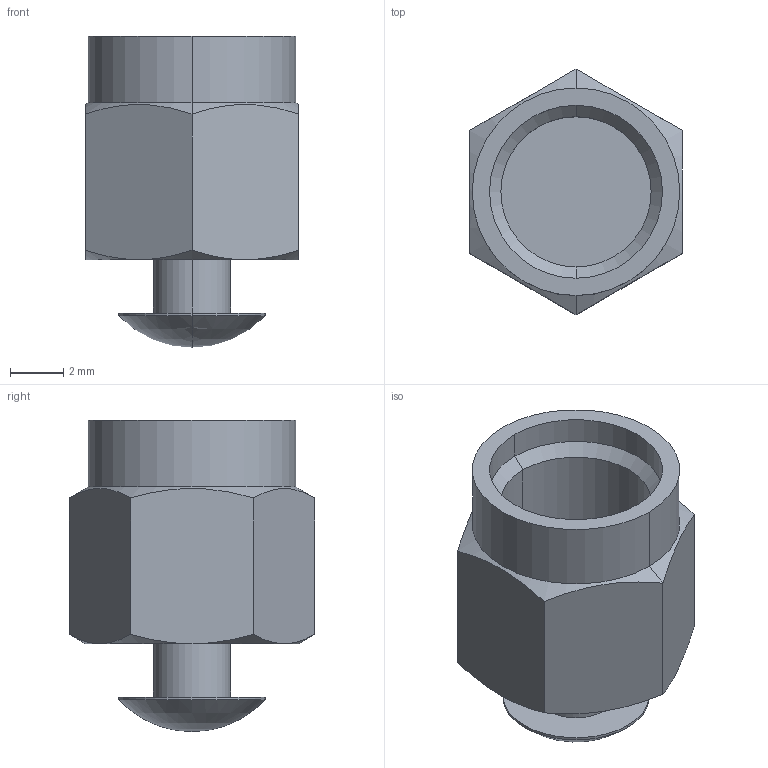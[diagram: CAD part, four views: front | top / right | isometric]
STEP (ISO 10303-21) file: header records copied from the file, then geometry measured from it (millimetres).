
FILE_DESCRIPTION((''),'2;1');
FILE_NAME('C-3-1478985-0','2007-12-27T',('workeradm'),('Tyco Electronics Corporation'),'PRO/ENGINEER BY PARAMETRIC TECHNOLOGY CORPORATION, 2005450','PRO/ENGINEER BY PARAMETRIC TECHNOLOGY CORPORATION, 2005450','');
FILE_SCHEMA(('CONFIG_CONTROL_DESIGN', 'GEOMETRIC_VALIDATION_PROPERTIES_MIM'));
Length unit declared in the file: millimetre
Products named in the file (1): C-3-1478985-0
Bounding box: 8 x 9.24 x 11.7 mm (x, y, z)
Volume: 328 mm3; surface area: 484.1 mm2
Topology: 1 solids, 1 shells, 32 faces, 68 edges, 39 vertices
Faces by surface type: plane 10, cylinder 10, cone 10, sphere 2
Entity records: 1063 total; most frequent: CARTESIAN_POINT 270, DIRECTION 140, ORIENTED_EDGE 132, EDGE_CURVE 66, COLOUR_RGB 64, AXIS2_PLACEMENT_3D 60, VERTEX_POINT 39, EDGE_LOOP 35
